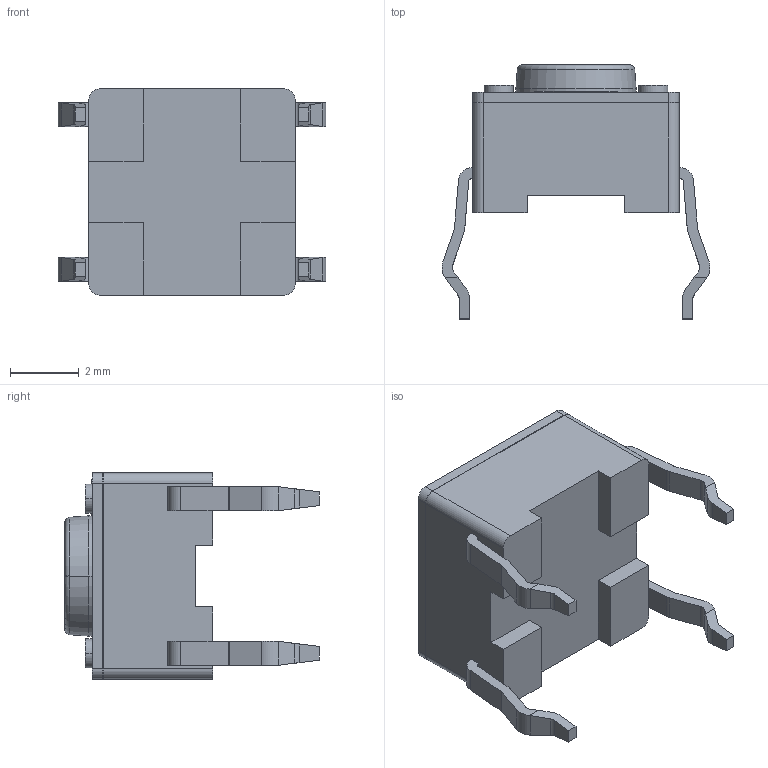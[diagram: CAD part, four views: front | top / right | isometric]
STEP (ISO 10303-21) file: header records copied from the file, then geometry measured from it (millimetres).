
FILE_DESCRIPTION((''),'2;1');
FILE_NAME('ASM0003_ASM','2024-01-06T',('WYH'),(''),'PRO/ENGINEER BY PARAMETRIC TECHNOLOGY CORPORATION, 2013040','PRO/ENGINEER BY PARAMETRIC TECHNOLOGY CORPORATION, 2013040','');
FILE_SCHEMA(('CONFIG_CONTROL_DESIGN'));
Length unit declared in the file: millimetre
Products named in the file (1): ASM0003_ASM
Bounding box: 7.8 x 7.4 x 6 mm (x, y, z)
Volume: 125.3 mm3; surface area: 283.1 mm2
Topology: 2 solids, 2 shells, 213 faces, 596 edges, 404 vertices
Faces by surface type: plane 140, cylinder 69, cone 2, torus 2
Entity records: 6942 total; most frequent: CARTESIAN_POINT 1287, ORIENTED_EDGE 1192, DIRECTION 1146, EDGE_CURVE 596, VECTOR 420, LINE 420, VERTEX_POINT 404, AXIS2_PLACEMENT_3D 363
